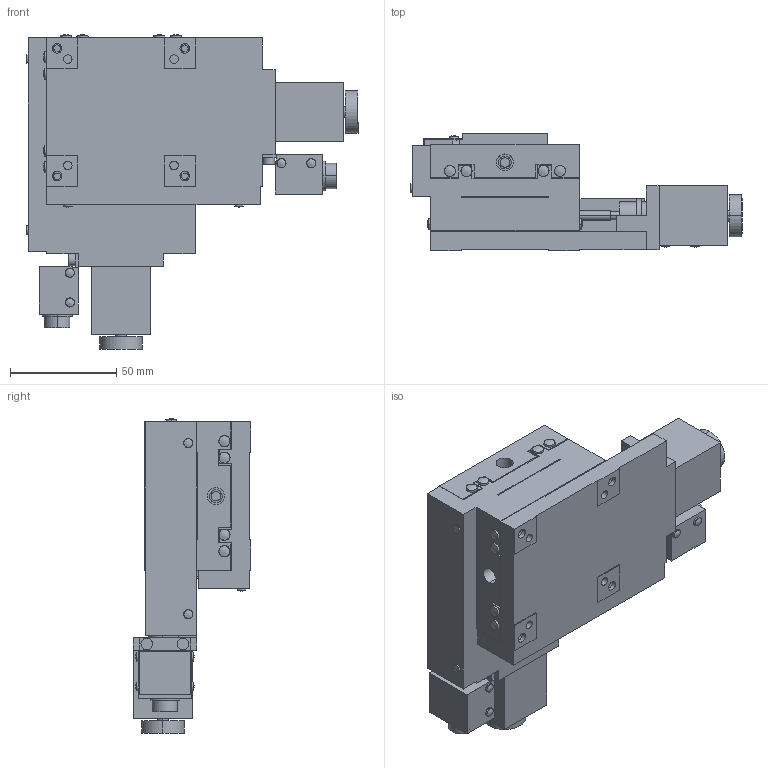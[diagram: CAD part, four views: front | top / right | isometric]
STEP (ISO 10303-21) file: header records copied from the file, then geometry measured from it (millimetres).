
FILE_DESCRIPTION (( 'STEP AP203' ), '1' );
FILE_NAME ('ALD-7013-G0M.STEP', '2010-12-21T02:42:12', ( ' ' ), ( ' ' ), 'SwSTEP 2.0', 'SolidWorks 2010', '' );
FILE_SCHEMA (( 'CONFIG_CONTROL_DESIGN' ));
Length unit declared in the file: millimetre
Products named in the file (4): ALD-7013-G0M; ALD-7013-G0M-1; ALD-7013-G0M-2; ALD-7013-G0M-3
Assembly tree (3 placements, depth 2):
  ALD-7013-G0M
    ALD-7013-G0M-1
    ALD-7013-G0M-3
    ALD-7013-G0M-2
Bounding box: 156.16 x 55.5 x 147.94 mm (x, y, z)
Volume: 386229.4 mm3; surface area: 117993.5 mm2
Topology: 3 solids, 9 shells, 600 faces, 1434 edges, 936 vertices
Faces by surface type: plane 298, cylinder 218, cone 56, bspline 28
Entity records: 23500 total; most frequent: CARTESIAN_POINT 8680, DIRECTION 3066, ORIENTED_EDGE 2868, EDGE_CURVE 1434, AXIS2_PLACEMENT_3D 1114, VERTEX_POINT 936, VECTOR 838, LINE 838
